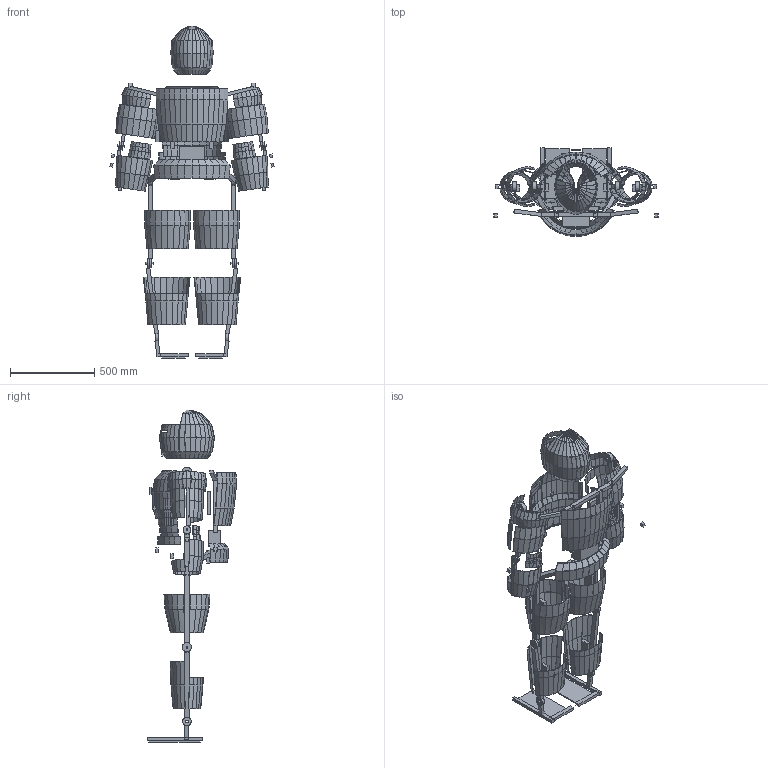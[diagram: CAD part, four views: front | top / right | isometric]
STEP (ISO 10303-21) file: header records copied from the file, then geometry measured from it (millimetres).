
FILE_DESCRIPTION(('Open CASCADE Model'),'2;1');
FILE_NAME('Open CASCADE Shape Model','2026-09-19T23:46:41',('Author'),( 'Open CASCADE'),'Open CASCADE STEP processor 7.9','Open CASCADE 7.9' ,'Unknown');
FILE_SCHEMA(('AUTOMOTIVE_DESIGN { 1 0 10303 214 1 1 1 1 }'));
Length unit declared in the file: millimetre
Products named in the file (111): IRON_DAD_P01_LAYOUT_NOT_LOAD_RATED; F01_L_BACK_RAIL; F01_R_BACK_RAIL; F02_BACK_UPPER_CROSS; F03_PELVIC_REAR_BRIDGE; F04_R_PELVIC_SIDE; J01_R_HIP_AXIS_ENVELOPE; J02_R_SHOULDER_AXIS_ENVELOPE; F05_R_SHOULDER_BRIDGE; F04_L_PELVIC_SIDE; J01_L_HIP_AXIS_ENVELOPE; J02_L_SHOULDER_AXIS_ENVELOPE; F05_L_SHOULDER_BRIDGE; J03_LUMBAR_INTERFACE_VOLUME; E01_REAR_SERVICE_BAY; P01_R_BACK_PAD_VOLUME; P02_R_PELVIC_PAD_VOLUME; P01_L_BACK_PAD_VOLUME; P02_L_PELVIC_PAD_VOLUME; S01_R_CHEST_DOOR; S01_L_CHEST_DOOR; S02_BACK_SKIN; L01_ABDOMEN_1; L01_ABDOMEN_2; L01_ABDOMEN_3; L02_R_OUTER_CHEST_1; L02_R_OUTER_CHEST_2; L02_R_OUTER_CHEST_3; L02_L_OUTER_CHEST_1; L02_L_OUTER_CHEST_2; L02_L_OUTER_CHEST_3; S03_PELVIS_REAR; S04_R_PELVIS_DOOR; S04_L_PELVIS_DOOR; F10_R_UPPER_ARM_RAIL; J10_R_ELBOW_UPPER_EYE; J11_R_ELBOW_LOWER_EYE; F11_R_FOREARM_RAIL; J12_R_ELBOW_PIN_LAYOUT; S10_R_BICEP_FRONT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
Assembly tree (110 placements, depth 2):
  IRON_DAD_P01_LAYOUT_NOT_LOAD_RATED
    F01_L_BACK_RAIL
    F01_R_BACK_RAIL
    F02_BACK_UPPER_CROSS
    F03_PELVIC_REAR_BRIDGE
    F04_R_PELVIC_SIDE
    J01_R_HIP_AXIS_ENVELOPE
    J02_R_SHOULDER_AXIS_ENVELOPE
    F05_R_SHOULDER_BRIDGE
    F04_L_PELVIC_SIDE
    J01_L_HIP_AXIS_ENVELOPE
    J02_L_SHOULDER_AXIS_ENVELOPE
    F05_L_SHOULDER_BRIDGE
    J03_LUMBAR_INTERFACE_VOLUME
    E01_REAR_SERVICE_BAY
    P01_R_BACK_PAD_VOLUME
    P02_R_PELVIC_PAD_VOLUME
    P01_L_BACK_PAD_VOLUME
    P02_L_PELVIC_PAD_VOLUME
    S01_R_CHEST_DOOR
    S01_L_CHEST_DOOR
    S02_BACK_SKIN
    L01_ABDOMEN_1
    L01_ABDOMEN_2
    L01_ABDOMEN_3
    L02_R_OUTER_CHEST_1
    L02_R_OUTER_CHEST_2
    L02_R_OUTER_CHEST_3
    L02_L_OUTER_CHEST_1
    L02_L_OUTER_CHEST_2
    L02_L_OUTER_CHEST_3
    S03_PELVIS_REAR
    S04_R_PELVIS_DOOR
    S04_L_PELVIS_DOOR
    F10_R_UPPER_ARM_RAIL
    J10_R_ELBOW_UPPER_EYE
    J11_R_ELBOW_LOWER_EYE
    F11_R_FOREARM_RAIL
    J12_R_ELBOW_PIN_LAYOUT
    S10_R_BICEP_FRONT
    S10_R_BICEP_REAR
    S11_R_FOREARM_FRONT
    S11_R_FOREARM_REAR
    E10_R_FOREARM_BAY
    P10_R_UPPERARM_PAD_VOLUME
    P11_R_FOREARM_PAD_VOLUME
    S12_R_SHOULDER_BELL
    L10_R_ELBOW_BACK_1
    L10_R_ELBOW_BACK_2
    L10_R_ELBOW_BACK_3
    G10_R_GAS_FIXED_ANCHOR
    G11_R_GAS_MOVING_ANCHOR
    F20_R_THIGH_RAIL
    J20_R_KNEE_UPPER_EYE
    J21_R_KNEE_LOWER_EYE
    F21_R_SHANK_RAIL
    J22_R_KNEE_PIN_LAYOUT
    J23_R_ANKLE_AXIS_ENVELOPE
    F22_R_FOOT_OUTER_RAIL
    F23_R_HEEL_CROSS
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Bounding box: 972.87 x 530 x 1968 mm (x, y, z)
Volume: 13876088.6 mm3; surface area: 4869742.7 mm2
Topology: 110 solids, 110 shells, 2052 faces, 4764 edges, 2928 vertices
Faces by surface type: bspline 1332, plane 688, cylinder 32
Full cylindrical faces by diameter (mm): 8 x2, 8.5 x4, 10 x2, 10.5 x4, 16 x2, 20 x2, 24 x2, 46 x4, 50 x2, 54 x4, 56 x2, 60 x2
Entity records: 119190 total; most frequent: CARTESIAN_POINT 29483, DIRECTION 12174, LINE 10320, VECTOR 10320, ORIENTED_EDGE 9528, PCURVE 9528, DEFINITIONAL_REPRESENTATION 9528, EDGE_CURVE 4764
